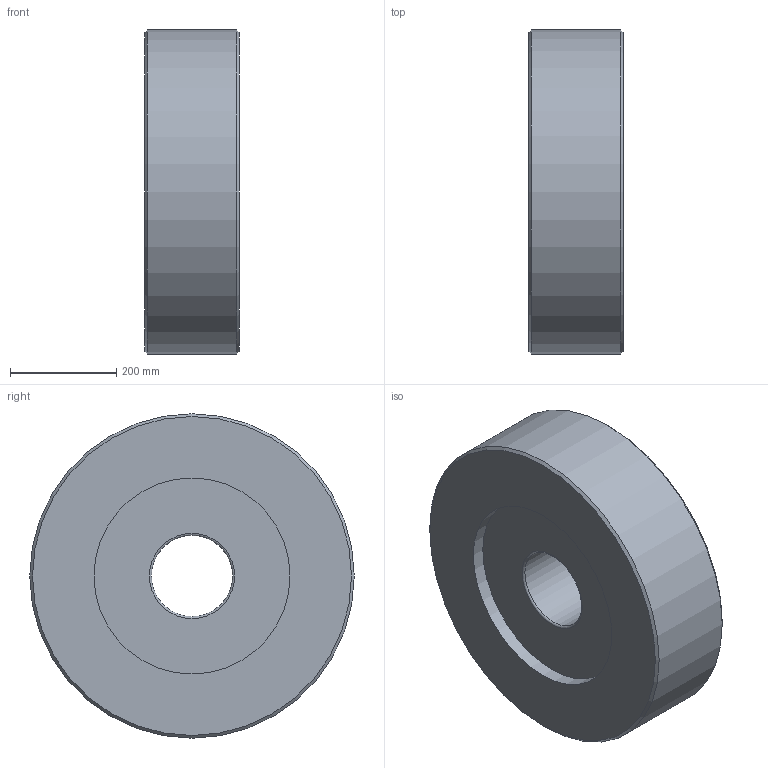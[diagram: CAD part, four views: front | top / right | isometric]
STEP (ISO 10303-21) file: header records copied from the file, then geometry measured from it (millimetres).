
FILE_DESCRIPTION((''),'1');
FILE_NAME('H:/図庫/国内ﾕﾆｯﾄ/ｶﾀﾛｸﾞ/樹脂巻き/ホームページ用ＣＡＤ図面/update用/3D/', '2017-07-13T06:47:51',(''), (''), 'KCM Version 1.1.1442.0', 'Kubotek KeyCreator', '');
FILE_SCHEMA(('AUTOMOTIVE_DESIGN'));
Length unit declared in the file: inch
Bounding box: 177.8 x 609.6 x 609.6 mm (x, y, z)
Surface area: 994316.4 mm2 (no closed solid volume)
Topology: 0 solids, 12 shells, 12 faces, 40 edges, 32 vertices
Faces by surface type: plane 4, cylinder 4, torus 2, cone 2
Full cylindrical faces by diameter (mm): 152.4 x1, 368.3 x2, 609.6 x1
Entity records: 476 total; most frequent: DIRECTION 92, CARTESIAN_POINT 81, ORIENTED_EDGE 48, AXIS2_PLACEMENT_3D 43, EDGE_CURVE 40, VERTEX_POINT 32, CIRCLE 30, EDGE_LOOP 16
